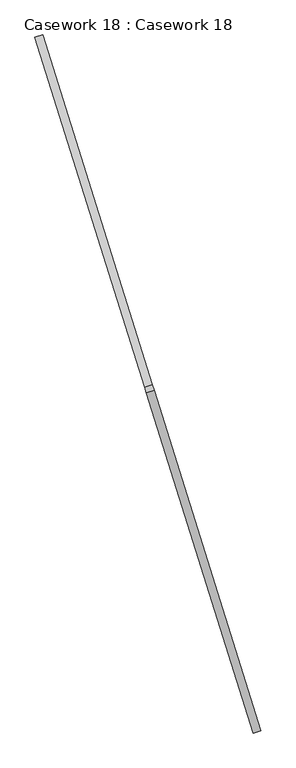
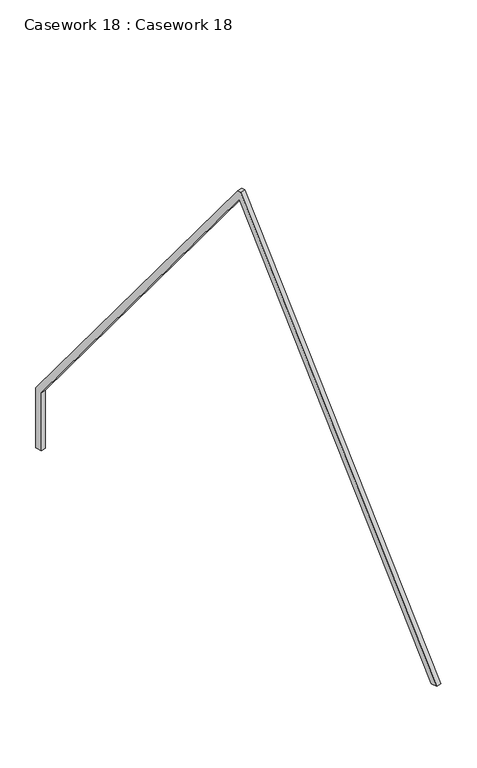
"""IFC4 building model written with IfcOpenShell, lengths in millimetres: furniture geometry, Casework 18 : Casework 18."""

from ifc_helpers import new_model, si_unit, frame, origin, place, context, project, spatial, polyline, outline, extrude, source, transform, mapped, element, save


def casework_18_casework_18_d125f7c3(model_context):
    return source(origin(), model_context, "Body", "SweptSolid", [
        extrude(outline(polyline([(7637.1079272, -1e-07), (8614.7253894, -722.5493659), (8541.277184, -821.9256184), (7598.2176428, -124.9177398), (67.9133358, -124.9177398), (3743.2071362, -8247.876448), (3671.6324118, -8344.7178595), (-79.6478027, -53.8176108), (-39.8716304, 0.0), (7637.1079272, -1e-07)])), frame((2648.3759964, -740.9630219, 10544.4448425), z_axis=(0.9541191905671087, 0.29942706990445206, 0.0), x_axis=(-0.17797080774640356, 0.5671009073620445, -0.804190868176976)), (0.0, 0.0, 1.0), 100.0),
    ])


if __name__ == "__main__":
    model = new_model("IFC4")
    model_context = context("Model", 3, world=origin())
    ifc_project = project(units=[si_unit("LENGTHUNIT", "METRE", prefix="MILLI")], contexts=[model_context])
    site = spatial("IfcSite", under=ifc_project)
    building = spatial("IfcBuilding", under=site)
    placement = place(None, origin())
    casework_18_casework_18_shape = casework_18_casework_18_d125f7c3(model_context)
    element("IfcFurniture", 1, ObjectType="Casework 18 : Casework 18", at=placement, inside=building, context=model_context, shape_type="MappedRepresentation", body=[
        mapped(casework_18_casework_18_shape, transform((0.0, 0.0, 0.0), x_axis=(1.0, 0.0, 0.0), y_axis=(0.0, 1.0, 0.0), z_axis=(0.0, 0.0, 1.0))),
    ])
    save(model, "model.ifc")
